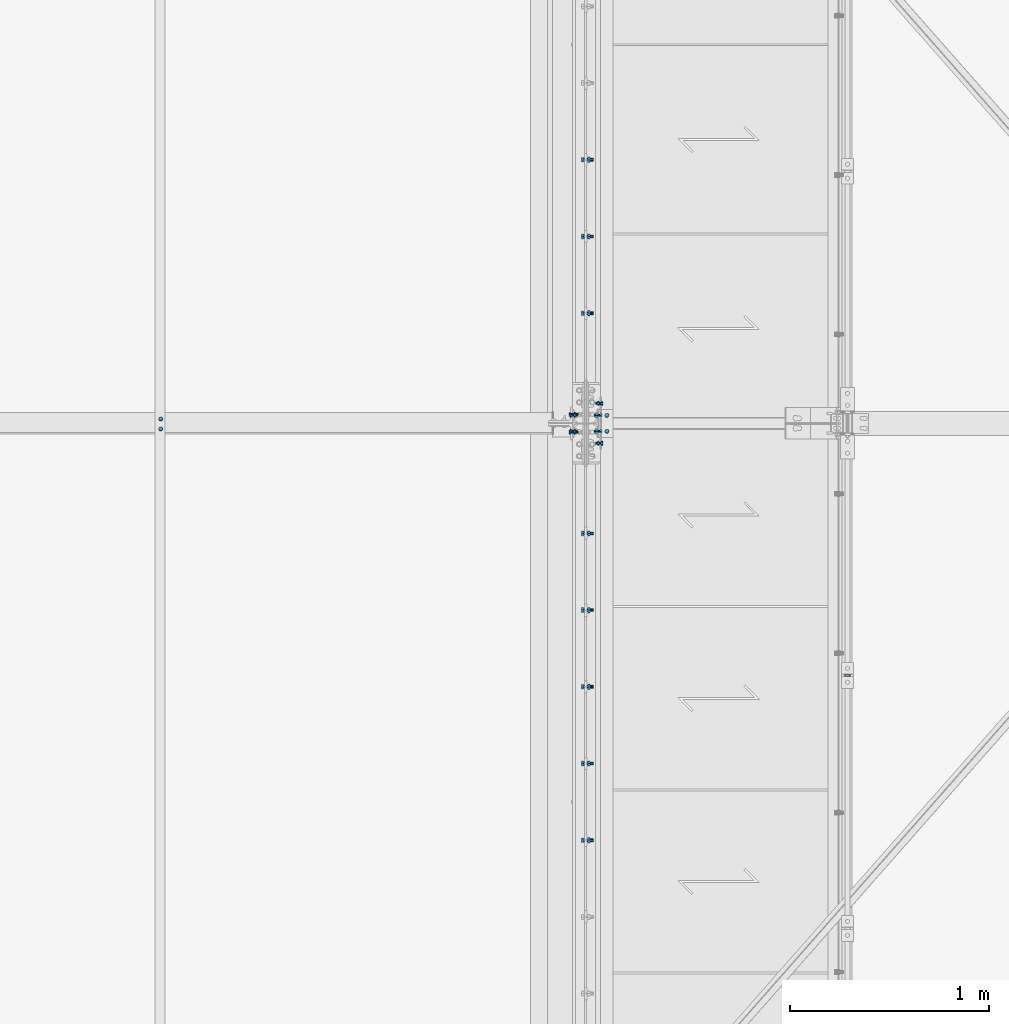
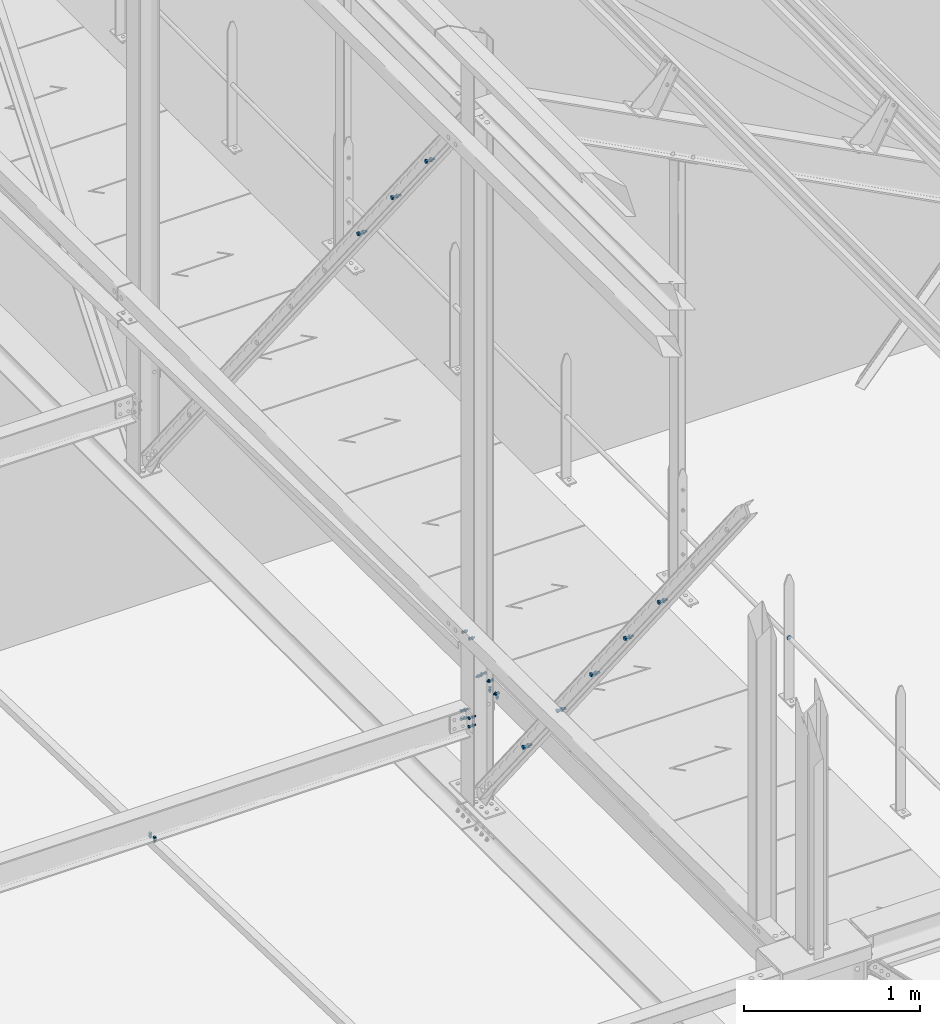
# One storey, part 226 of 362: 22 mechanical fasteners.
"""IFC2X3 building model written with IfcOpenShell, lengths in millimetres."""

import ifcopenshell
import ifcopenshell.guid

model = None  # the IFC model being written
_history = None  # IfcOwnerHistory: only IFC2X3 demands one
_inside = {}  # id of a spatial element -> (the spatial element, [elements in it])
_under = {}  # id of a project, library or spatial element -> (it, [spatial elements below it])
_declared = {}  # id of a project -> (the project, [libraries it declares])
_typed = {}  # id of a type object -> (the type object, [elements of that type])
_made_of = {}  # id of a material, layer set ... -> (it, [elements and type objects made of it])


def new_model(schema):
    """Start an empty IFC model of exactly this schema.

    Asked for "IFC4X3", IfcOpenShell would pick the latest addendum, in which some entities
    have other attributes; the version numbers below select the first issue.
    IFC2X3 requires an IfcOwnerHistory on every rooted entity: one is made here for all.
    """
    global model, _history
    if schema == "IFC4X3":
        model = ifcopenshell.file(schema_version=(4, 3, 0, 0))
    else:
        model = ifcopenshell.file(schema=schema)
    _inside.clear()
    _under.clear()
    _declared.clear()
    _typed.clear()
    _made_of.clear()
    _history = None
    if model.schema == "IFC2X3":
        org = make("IfcOrganization", Name="unknown")
        user = make(
            "IfcPersonAndOrganization",
            ThePerson=make("IfcPerson", FamilyName="unknown"),
            TheOrganization=org,
        )
        app = make(
            "IfcApplication",
            ApplicationDeveloper=org,
            Version="unknown",
            ApplicationFullName="unknown",
            ApplicationIdentifier="unknown",
        )
        _history = make(
            "IfcOwnerHistory",
            OwningUser=user,
            OwningApplication=app,
            ChangeAction="ADDED",
            CreationDate=0,
        )
    return model


def make(cls, **values):
    """One entity of the class cls with the attributes given. An attribute that is None is left unset."""
    return model.create_entity(
        cls, **{name: value for name, value in values.items() if value is not None}
    )


def rooted(cls, **values):
    """An entity with a GlobalId (a new one), such as an element, a storey or a relation."""
    return make(cls, GlobalId=ifcopenshell.guid.new(), OwnerHistory=_history, **values)


def si_unit(unit_type, name, prefix=None):
    """IfcSIUnit, for example si_unit("LENGTHUNIT", "METRE", prefix="MILLI")."""
    return make("IfcSIUnit", UnitType=unit_type, Prefix=prefix, Name=name)


def assignment(units):
    """IfcUnitAssignment: the units of a project."""
    return None if units is None else make("IfcUnitAssignment", Units=units)


def point(xyz):
    """IfcCartesianPoint."""
    return None if xyz is None else make("IfcCartesianPoint", Coordinates=xyz)


def direction(xyz):
    """IfcDirection."""
    return None if xyz is None else make("IfcDirection", DirectionRatios=xyz)


def frame(location, z_axis=None, x_axis=None):
    """IfcAxis2Placement3D, a coordinate frame: its origin and axes. An axis left out is left unset."""
    return make(
        "IfcAxis2Placement3D",
        Location=point(location),
        Axis=direction(z_axis),
        RefDirection=direction(x_axis),
    )


def frame_2d(location, x_axis=None):
    """IfcAxis2Placement2D, a coordinate frame in the plane: its origin and x axis."""
    return make(
        "IfcAxis2Placement2D", Location=point(location), RefDirection=direction(x_axis)
    )


def origin_with_axes():
    """The frame at (0, 0, 0) with the z axis (0, 0, 1) and the x axis (1, 0, 0) written out."""
    return frame((0.0, 0.0, 0.0), z_axis=(0.0, 0.0, 1.0), x_axis=(1.0, 0.0, 0.0))


def origin_2d_with_axis():
    """The frame at (0, 0) in the plane with the x axis (1, 0) written out."""
    return frame_2d((0.0, 0.0), x_axis=(1.0, 0.0))


def place(relative_to, where):
    """IfcLocalPlacement: puts the frame where relative to a parent placement (None: the world)."""
    return make(
        "IfcLocalPlacement", PlacementRelTo=relative_to, RelativePlacement=where
    )


def context(
    kind, dimensions, precision=None, world=None, true_north=None, identifier=None
):
    """IfcGeometricRepresentationContext, for example the 3D "Model" context."""
    return make(
        "IfcGeometricRepresentationContext",
        ContextIdentifier=identifier,
        ContextType=kind,
        CoordinateSpaceDimension=dimensions,
        Precision=precision,
        WorldCoordinateSystem=world,
        TrueNorth=true_north,
    )


def subcontext(parent, identifier, kind, view, scale=None):
    """IfcGeometricRepresentationSubContext, for example "Body" below "Model"."""
    return make(
        "IfcGeometricRepresentationSubContext",
        ContextIdentifier=identifier,
        ContextType=kind,
        ParentContext=parent,
        TargetScale=scale,
        TargetView=view,
    )


def project(units=None, contexts=None):
    """IfcProject with its units and contexts."""
    return rooted(
        "IfcProject",
        Name="project",
        RepresentationContexts=contexts,
        UnitsInContext=assignment(units),
    )


def spatial(cls, under=None, at=None, **own):
    """A site, building, storey or space (cls), placed at a placement, below another one or the project."""
    s = rooted(cls, ObjectPlacement=at, **own)
    if under is not None:
        _under.setdefault(under.id(), (under, []))[1].append(s)
    return s


def polyline(points):
    """IfcPolyline through the points."""
    return make("IfcPolyline", Points=[point(p) for p in points])


def profile(cls, at=None, kind="AREA", **sizes):
    """A parametric profile (cls). Its sizes go by their IFC names, for example OverallWidth=200.0."""
    return make(cls, ProfileType=kind, Position=at, **sizes)


def circle(**sizes):
    """IfcCircleProfileDef."""
    return profile("IfcCircleProfileDef", **sizes)


def outline(outer, holes=None, kind="AREA"):
    """IfcArbitraryClosedProfileDef: a profile drawn as a closed curve; with holes, ...WithVoids."""
    if holes is None:
        return make("IfcArbitraryClosedProfileDef", ProfileType=kind, OuterCurve=outer)
    return make(
        "IfcArbitraryProfileDefWithVoids",
        ProfileType=kind,
        OuterCurve=outer,
        InnerCurves=holes,
    )


def extrude(swept, where, along, depth):
    """IfcExtrudedAreaSolid: the profile swept, set in the frame where, extruded along a direction by depth."""
    return make(
        "IfcExtrudedAreaSolid",
        SweptArea=swept,
        Position=where,
        ExtrudedDirection=direction(along),
        Depth=depth,
    )


def shape(context_of_items, identifier, shape_type, items):
    """IfcShapeRepresentation: the items that make up one representation, for example the "Body"."""
    return make(
        "IfcShapeRepresentation",
        ContextOfItems=context_of_items,
        RepresentationIdentifier=identifier,
        RepresentationType=shape_type,
        Items=items,
    )


def source(mapping_origin, context_of_items, identifier, shape_type, items):
    """IfcRepresentationMap: a shape defined once, which mapped items show again and again."""
    return make(
        "IfcRepresentationMap",
        MappingOrigin=mapping_origin,
        MappedRepresentation=shape(context_of_items, identifier, shape_type, items),
    )


def transform(
    local_origin,
    x_axis=None,
    y_axis=None,
    z_axis=None,
    scale=None,
    scale2=None,
    scale3=None,
    uniform=True,
):
    """IfcCartesianTransformationOperator3D, or its non-uniform kind. x_axis, y_axis, z_axis: its Axis1, 2, 3."""
    if uniform:
        return make(
            "IfcCartesianTransformationOperator3D",
            Axis1=direction(x_axis),
            Axis2=direction(y_axis),
            LocalOrigin=point(local_origin),
            Scale=scale,
            Axis3=direction(z_axis),
        )
    return make(
        "IfcCartesianTransformationOperator3DnonUniform",
        Axis1=direction(x_axis),
        Axis2=direction(y_axis),
        LocalOrigin=point(local_origin),
        Scale=scale,
        Axis3=direction(z_axis),
        Scale2=scale2,
        Scale3=scale3,
    )


def mapped(mapping_source, mapping_target):
    """IfcMappedItem: shows the shape of a source again, moved by a transform."""
    return make(
        "IfcMappedItem", MappingSource=mapping_source, MappingTarget=mapping_target
    )


def material(Name=None, Category=None):
    """IfcMaterial."""
    return make("IfcMaterial", Name=Name, Category=Category)


def made_of(thing, what):
    """Note that an element or type object is made of a material, layer set ...; save() writes the relation."""
    if what is not None:
        _made_of.setdefault(what.id(), (what, []))[1].append(thing)
    return thing


def type_object(cls, material=None, **own):
    """A type object (cls), such as IfcWallType, which elements share."""
    return made_of(rooted(cls, **own), material)


def element(
    cls,
    number,
    at=None,
    inside=None,
    cuts=None,
    type_object=None,
    material=None,
    context=None,
    identifier="Body",
    shape_type=None,
    held_by="IfcProductDefinitionShape",
    body=None,
    shapes=None,
    **own,
):
    """One element of the class cls, such as IfcWall. Its Tag is "e" and its number.

    at: its placement. inside: the storey or other place that contains it. cuts: it is an
    opening in that element (IfcRelVoidsElement). A single representation is given by context,
    identifier, shape_type and body (its items); several are given by shapes. held_by: the class
    of the entity that holds the representations. save() writes the other relations.
    """
    e = rooted(cls, Tag="e%d" % number, ObjectPlacement=at, **own)
    if body is not None:
        shapes = [shape(context, identifier, shape_type, body)]
    if shapes is not None:
        e.Representation = make(held_by, Representations=shapes)
    if inside is not None:
        _inside.setdefault(inside.id(), (inside, []))[1].append(e)
    if cuts is not None:
        rooted(
            "IfcRelVoidsElement", RelatingBuildingElement=cuts, RelatedOpeningElement=e
        )
    if type_object is not None:
        _typed.setdefault(type_object.id(), (type_object, []))[1].append(e)
    return made_of(e, material)


def aggregate(whole, parts):
    """IfcRelAggregates: a whole, such as a stair, and the parts it consists of."""
    return rooted("IfcRelAggregates", RelatingObject=whole, RelatedObjects=parts)


def save(model, path):
    """Write the relations noted so far, then the file.

    IfcRelAggregates (storeys below a building ...), IfcRelContainedInSpatialStructure (elements
    in a storey), IfcRelDefinesByType, IfcRelAssociatesMaterial and IfcRelDeclares: one each for
    every whole, place, type object, material and project.
    """
    for whole, parts in _under.values():
        aggregate(whole, parts)
    for where, things in _inside.values():
        rooted(
            "IfcRelContainedInSpatialStructure",
            RelatedElements=things,
            RelatingStructure=where,
        )
    for kind, things in _typed.values():
        rooted("IfcRelDefinesByType", RelatedObjects=things, RelatingType=kind)
    for what, things in _made_of.values():
        rooted("IfcRelAssociatesMaterial", RelatedObjects=things, RelatingMaterial=what)
    for by, libraries in _declared.values():
        rooted("IfcRelDeclares", RelatingContext=by, RelatedDefinitions=libraries)
    model.write(path)


model = new_model("IFC2X3")

# Units and contexts
model_context = context("Model", 3, precision=1e-05, world=origin_with_axes())
body_context = subcontext(model_context, "Body", "Model", "MODEL_VIEW")
ifc_project = project(units=[si_unit("LENGTHUNIT", "METRE", prefix="MILLI"), si_unit("AREAUNIT", "SQUARE_METRE"), si_unit("VOLUMEUNIT", "CUBIC_METRE"), si_unit("MASSUNIT", "GRAM", prefix="KILO"), si_unit("TIMEUNIT", "SECOND"), si_unit("PLANEANGLEUNIT", "RADIAN"), si_unit("SOLIDANGLEUNIT", "STERADIAN"), si_unit("THERMODYNAMICTEMPERATUREUNIT", "DEGREE_CELSIUS"), si_unit("LUMINOUSINTENSITYUNIT", "LUMEN")], contexts=[model_context])

# Site, building, storey
site_placement = place(None, origin_with_axes())
site = spatial("IfcSite", under=ifc_project, at=site_placement, Name="Undefined", CompositionType="ELEMENT")
building_placement = place(site_placement, origin_with_axes())
building = spatial("IfcBuilding", under=site, at=building_placement, Name="Undefined", CompositionType="ELEMENT")
storey_placement = place(building_placement, origin_with_axes())
storey = spatial("IfcBuildingStorey", under=building, at=storey_placement, Name="Undefined", CompositionType="ELEMENT", Elevation=0.0)

# Mechanical fasteners
ifc_material_1 = material(Name="8.8-SB-ZINGUE")
mechanical_fastener_type = type_object("IfcMechanicalFastenerType", Name="Bolt assembly")
shared_shape_1 = source(origin_with_axes(), body_context, "Body", "SweptSolid", [
    extrude(circle(Radius=9.0, at=origin_2d_with_axis()), frame((0.0, -10.9000000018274, 0.0), z_axis=(0.0, 1.0, 0.0), x_axis=(1.0, 0.0, 0.0)), (0.0, 0.0, 1.0), 6.0),
    extrude(circle(Radius=9.0, at=origin_2d_with_axis()), frame((0.0, 4.9000000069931, 0.0), z_axis=(0.0, 1.0, 0.0), x_axis=(1.0, 0.0, 0.0)), (0.0, 0.0, 1.0), 6.1),
    extrude(circle(Radius=9.0, at=origin_2d_with_axis()), frame((0.0, -3.99999923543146, 0.0), z_axis=(0.0, 1.0, 0.0), x_axis=(1.0, 0.0, 0.0)), (0.0, 0.0, 1.0), 8.0),
    extrude(outline(polyline([(13.85640646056, 0.0), (6.92820323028, 12.0000000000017), (-6.92820323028, 12.0000000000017), (-13.85640646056, 0.0), (-6.92820323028, -12.0000000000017), (6.92820323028, -12.0000000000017), (13.85640646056, 0.0)])), frame((0.0, -21.5600000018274, 0.0), z_axis=(0.0, 1.0, 0.0), x_axis=(1.0, 0.0, 0.0)), (0.0, 0.0, 1.0), 10.56),
    extrude(circle(Radius=8.0, at=origin_2d_with_axis()), frame((0.0, -11.0000000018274, 0.0), z_axis=(0.0, 1.0, 0.0), x_axis=(1.0, 0.0, 0.0)), (0.0, 0.0, 1.0), 50.0),
    extrude(outline(polyline([(15.3344231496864, 0.0), (7.6672115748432, 13.2800000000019), (-7.6672115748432, 13.2800000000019), (-15.3344231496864, 0.0), (-7.6672115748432, -13.2800000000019), (7.6672115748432, -13.2800000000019), (15.3344231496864, 0.0)])), frame((0.0, 11.0000000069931, 0.0), z_axis=(0.0, 1.0, 0.0), x_axis=(1.0, 0.0, 0.0)), (0.0, 0.0, 1.0), 10.56),
])
for number, where, z_axis, x_axis, name in (
    (1, (12680.0, 1707.54406530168, 9885.94766062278), (0.0, 1.0, 0.0), (0.0, 0.0, 1.0), "Bolt assembly"),
    (2, (12680.0, 2092.46145592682, 9401.0523385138), (0.0, 1.0, 0.0), (0.0, 0.0, 1.0), "Bolt assembly"),
    (3, (12680.0, 2477.37884655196, 8916.15701640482), (0.0, 1.0, 0.0), (0.0, 0.0, 1.0), "Bolt assembly"),
    (4, (12680.0, 2862.29623717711, 8431.26169429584), (0.0, 1.0, 0.0), (0.0, 0.0, 1.0), "Bolt assembly"),
    (5, (12680.0, 3247.21362780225, 7946.36637218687), (0.0, 1.0, 0.0), (0.0, 0.0, 1.0), "Bolt assembly"),
    (6, (12680.0, 4352.78710359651, 11340.6337213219), (0.0, 1.0, 0.0), (0.0, 0.0, 1.0), "Bolt assembly"),
    (7, (12680.0, 4737.70507401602, 10855.7383723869), (0.0, 1.0, 0.0), (0.0, 0.0, 1.0), "Bolt assembly"),
    (8, (12680.0, 5122.62304443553, 10370.843023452), (0.0, 1.0, 0.0), (0.0, 0.0, 1.0), "Bolt assembly"),
):
    element("IfcMechanicalFastener", number, at=place(storey_placement, frame(where, z_axis=z_axis, x_axis=x_axis)), inside=storey, type_object=mechanical_fastener_type, material=ifc_material_1, Name=name, NominalDiameter=16.0, NominalLength=50.0, context=body_context, shape_type="MappedRepresentation", body=[
        mapped(shared_shape_1, transform((0.0, 0.0, 0.0))),
    ])
shared_shape_2 = source(origin_with_axes(), body_context, "Body", "SweptSolid", [
    extrude(circle(Radius=7.0, at=origin_2d_with_axis()), frame((0.0, -8.39481938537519, 0.0), z_axis=(0.0, 1.0, 0.0), x_axis=(1.0, 0.0, 0.0)), (0.0, 0.0, 1.0), 8.5),
    extrude(circle(Radius=7.0, at=origin_2d_with_axis()), frame((0.0, -0.100011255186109, 0.0), z_axis=(0.0, 1.0, 0.0), x_axis=(1.0, 0.0, 0.0)), (0.0, 0.0, 1.0), 5.1),
    extrude(outline(polyline([(10.39230484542, 0.0), (5.19615242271, 9.00000000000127), (-5.19615242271, 9.00000000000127), (-10.39230484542, 0.0), (-5.19615242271, -9.00000000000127), (5.19615242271, -9.00000000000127), (10.39230484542, 0.0)])), frame((0.0, -16.4148193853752, 0.0), z_axis=(0.0, 1.0, 0.0), x_axis=(1.0, 0.0, 0.0)), (0.0, 0.0, 1.0), 7.92),
    extrude(circle(Radius=6.0, at=origin_2d_with_axis()), frame((0.0, -8.49481938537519, 0.0), z_axis=(0.0, 1.0, 0.0), x_axis=(1.0, 0.0, 0.0)), (0.0, 0.0, 1.0), 30.0),
    extrude(outline(polyline([(11.5008173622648, 0.0), (5.7504086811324, 9.96000000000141), (-5.7504086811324, 9.96000000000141), (-11.5008173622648, 0.0), (-5.7504086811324, -9.96000000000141), (5.7504086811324, -9.96000000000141), (11.5008173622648, 0.0)])), frame((0.0, 5.0, 0.0), z_axis=(0.0, 1.0, 0.0), x_axis=(1.0, 0.0, 0.0)), (0.0, 0.0, 1.0), 7.92),
])
mechanical_fastener_1_placement = place(storey_placement, frame((10546.7500126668, 3796.86456270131, 7730.58514469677), z_axis=(0.0, -0.999506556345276, 0.031410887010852), x_axis=(-1.0, 0.0, 0.0)))
element("IfcMechanicalFastener", 9, at=mechanical_fastener_1_placement, inside=storey, type_object=mechanical_fastener_type, material=ifc_material_1, Name="Bolt assembly", NominalDiameter=12.0, NominalLength=30.0, context=body_context, shape_type="MappedRepresentation", body=[
    mapped(shared_shape_2, transform((0.0, 0.0, -25.0))),
    mapped(shared_shape_2, transform((0.0, 0.0, 25.0))),
])
ifc_material_2 = material(Name="6.8")
shared_shape_3 = source(origin_with_axes(), body_context, "Body", "SweptSolid", [
    extrude(circle(Radius=14.0, at=origin_2d_with_axis()), frame((0.0, -5.00000000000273, 0.0), z_axis=(0.0, 1.0, 0.0), x_axis=(1.0, 0.0, 0.0)), (0.0, 0.0, 1.0), 10.1),
])
mechanical_fastener_2_placement = place(storey_placement, frame((13993.9998847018, 2535.00344774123, 8673.80000564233), z_axis=(0.0, 0.0, 1.0), x_axis=(-1.0, 0.0, 0.0)))
element("IfcMechanicalFastener", 10, at=mechanical_fastener_2_placement, inside=storey, type_object=mechanical_fastener_type, material=ifc_material_2, Name="Bolt assembly", NominalDiameter=27.0, NominalLength=10.0, context=body_context, shape_type="MappedRepresentation", body=[
    mapped(shared_shape_3, transform((0.0, 0.0, 0.0))),
])
shared_shape_4 = source(origin_with_axes(), body_context, "Body", "SweptSolid", [
    extrude(circle(Radius=7.0, at=origin_2d_with_axis()), frame((0.0, -0.091713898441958, 0.0), z_axis=(0.0, 1.0, 0.0), x_axis=(1.0, 0.0, 0.0)), (0.0, 0.0, 1.0), 8.6),
    extrude(circle(Radius=7.0, at=origin_2d_with_axis()), frame((0.0, -4.90000000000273, 0.0), z_axis=(0.0, 1.0, 0.0), x_axis=(1.0, 0.0, 0.0)), (0.0, 0.0, 1.0), 5.0),
    extrude(outline(polyline([(10.39230484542, 0.0), (5.19615242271, 9.00000000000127), (-5.19615242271, 9.00000000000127), (-10.39230484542, 0.0), (-5.19615242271, -9.00000000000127), (5.19615242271, -9.00000000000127), (10.39230484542, 0.0)])), frame((0.0, -12.9200004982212, 0.0), z_axis=(0.0, 1.0, 0.0), x_axis=(1.0, 0.0, 0.0)), (0.0, 0.0, 1.0), 7.92),
    extrude(circle(Radius=6.0, at=origin_2d_with_axis()), frame((0.0, -5.00000000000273, 0.0), z_axis=(0.0, 1.0, 0.0), x_axis=(1.0, 0.0, 0.0)), (0.0, 0.0, 1.0), 30.0),
    extrude(outline(polyline([(11.5008173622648, 0.0), (5.7504086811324, 9.96000000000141), (-5.7504086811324, 9.96000000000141), (-11.5008173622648, 0.0), (-5.7504086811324, -9.96000000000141), (5.7504086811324, -9.96000000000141), (11.5008173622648, 0.0)])), frame((0.0, 8.50828610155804, 0.0), z_axis=(0.0, 1.0, 0.0), x_axis=(1.0, 0.0, 0.0)), (0.0, 0.0, 1.0), 7.92),
])
for number, where, z_axis, x_axis, name in (
    (11, (12746.5082861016, 3760.00000098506, 8070.00000000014), (0.0, 1.0, 0.0), (0.0, 0.0, -1.0), "Bolt assembly"),
    (12, (12746.5082861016, 3840.00000098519, 8070.00000000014), (0.0, 1.0, 0.0), (0.0, 0.0, -1.0), "Bolt assembly"),
):
    element("IfcMechanicalFastener", number, at=place(storey_placement, frame(where, z_axis=z_axis, x_axis=x_axis)), inside=storey, type_object=mechanical_fastener_type, material=ifc_material_1, Name=name, NominalDiameter=12.0, NominalLength=30.0, context=body_context, shape_type="MappedRepresentation", body=[
        mapped(shared_shape_4, transform((0.0, 0.0, 0.0))),
    ])
shared_shape_5 = source(origin_with_axes(), body_context, "Body", "SweptSolid", [
    extrude(circle(Radius=7.0, at=origin_2d_with_axis()), frame((0.0, -4.90000000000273, 0.0), z_axis=(0.0, 1.0, 0.0), x_axis=(1.0, 0.0, 0.0)), (0.0, 0.0, 1.0), 5.0),
    extrude(circle(Radius=7.0, at=origin_2d_with_axis()), frame((0.0, -0.100011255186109, 0.0), z_axis=(0.0, 1.0, 0.0), x_axis=(1.0, 0.0, 0.0)), (0.0, 0.0, 1.0), 7.1),
    extrude(outline(polyline([(10.39230484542, 0.0), (5.19615242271, 9.00000000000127), (-5.19615242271, 9.00000000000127), (-10.39230484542, 0.0), (-5.19615242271, -9.00000000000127), (5.19615242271, -9.00000000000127), (10.39230484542, 0.0)])), frame((0.0, -12.9200004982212, 0.0), z_axis=(0.0, 1.0, 0.0), x_axis=(1.0, 0.0, 0.0)), (0.0, 0.0, 1.0), 7.92),
    extrude(circle(Radius=6.0, at=origin_2d_with_axis()), frame((0.0, -5.00000000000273, 0.0), z_axis=(0.0, 1.0, 0.0), x_axis=(1.0, 0.0, 0.0)), (0.0, 0.0, 1.0), 30.0),
    extrude(outline(polyline([(11.5008173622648, 0.0), (5.7504086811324, 9.96000000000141), (-5.7504086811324, 9.96000000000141), (-11.5008173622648, 0.0), (-5.7504086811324, -9.96000000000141), (5.7504086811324, -9.96000000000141), (11.5008173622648, 0.0)])), frame((0.0, 7.0, 0.0), z_axis=(0.0, 1.0, 0.0), x_axis=(1.0, 0.0, 0.0)), (0.0, 0.0, 1.0), 7.92),
])
for number, where, z_axis, x_axis, name in (
    (13, (12786.5082861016, 3839.99999998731, 7950.00000000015), (0.0, -1.0, 0.0), (-1.0, 0.0, 0.0), "Bolt assembly"),
    (14, (12786.5082861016, 3759.99999998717, 7950.00000000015), (0.0, -1.0, 0.0), (-1.0, 0.0, 0.0), "Bolt assembly"),
):
    element("IfcMechanicalFastener", number, at=place(storey_placement, frame(where, z_axis=z_axis, x_axis=x_axis)), inside=storey, type_object=mechanical_fastener_type, material=ifc_material_1, Name=name, NominalDiameter=12.0, NominalLength=30.0, context=body_context, shape_type="MappedRepresentation", body=[
        mapped(shared_shape_5, transform((0.0, 0.0, 0.0))),
    ])
shared_shape_6 = source(origin_with_axes(), body_context, "Body", "SweptSolid", [
    extrude(circle(Radius=7.0, at=origin_2d_with_axis()), frame((0.0, -0.108170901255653, 0.0), z_axis=(0.0, 1.0, 0.0), x_axis=(1.0, 0.0, 0.0)), (0.0, 0.0, 1.0), 5.1),
    extrude(circle(Radius=7.0, at=origin_2d_with_axis()), frame((0.0, -6.4, 0.0), z_axis=(0.0, 1.0, 0.0), x_axis=(1.0, 0.0, 0.0)), (0.0, 0.0, 1.0), 6.0),
    extrude(outline(polyline([(10.39230484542, 0.0), (5.19615242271, 9.00000000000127), (-5.19615242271, 9.00000000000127), (-10.39230484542, 0.0), (-5.19615242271, -9.00000000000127), (5.19615242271, -9.00000000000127), (10.39230484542, 0.0)])), frame((0.0, -14.42, 0.0), z_axis=(0.0, 1.0, 0.0), x_axis=(1.0, 0.0, 0.0)), (0.0, 0.0, 1.0), 7.92),
    extrude(circle(Radius=6.0, at=origin_2d_with_axis()), frame((0.0, -6.5, 0.0), z_axis=(0.0, 1.0, 0.0), x_axis=(1.0, 0.0, 0.0)), (0.0, 0.0, 1.0), 30.0),
    extrude(outline(polyline([(11.5008173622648, 0.0), (5.7504086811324, 9.96000000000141), (-5.7504086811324, 9.96000000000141), (-11.5008173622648, 0.0), (-5.7504086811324, -9.96000000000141), (5.7504086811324, -9.96000000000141), (11.5008173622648, 0.0)])), frame((0.0, 4.99182909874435, 0.0), z_axis=(0.0, 1.0, 0.0), x_axis=(1.0, 0.0, 0.0)), (0.0, 0.0, 1.0), 7.92),
])
for number, where, z_axis, x_axis, name in (
    (15, (12751.5001144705, 3899.999999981, 8015.00000000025), (0.0, 0.0, -1.0), (0.0, -1.0, 0.0), "Bolt assembly"),
    (16, (12751.5001144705, 3699.99999998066, 8015.00000000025), (0.0, 0.0, 1.0), (0.0, 1.0, 0.0), "Bolt assembly"),
):
    element("IfcMechanicalFastener", number, at=place(storey_placement, frame(where, z_axis=z_axis, x_axis=x_axis)), inside=storey, type_object=mechanical_fastener_type, material=ifc_material_1, Name=name, NominalDiameter=12.0, NominalLength=30.0, context=body_context, shape_type="MappedRepresentation", body=[
        mapped(shared_shape_6, transform((0.0, 0.0, 0.0))),
    ])
shared_shape_7 = source(origin_with_axes(), body_context, "Body", "SweptSolid", [
    extrude(circle(Radius=7.0, at=origin_2d_with_axis()), frame((0.0, -0.100011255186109, 0.0), z_axis=(0.0, 1.0, 0.0), x_axis=(1.0, 0.0, 0.0)), (0.0, 0.0, 1.0), 8.6),
    extrude(circle(Radius=7.0, at=origin_2d_with_axis()), frame((0.0, -3.89999843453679, 0.0), z_axis=(0.0, 1.0, 0.0), x_axis=(1.0, 0.0, 0.0)), (0.0, 0.0, 1.0), 4.0),
    extrude(outline(polyline([(10.39230484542, 0.0), (5.19615242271, 9.00000000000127), (-5.19615242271, 9.00000000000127), (-10.39230484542, 0.0), (-5.19615242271, -9.00000000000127), (5.19615242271, -9.00000000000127), (10.39230484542, 0.0)])), frame((0.0, -11.9199984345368, 0.0), z_axis=(0.0, 1.0, 0.0), x_axis=(1.0, 0.0, 0.0)), (0.0, 0.0, 1.0), 7.92),
    extrude(circle(Radius=6.0, at=origin_2d_with_axis()), frame((0.0, -3.99999923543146, 0.0), z_axis=(0.0, 1.0, 0.0), x_axis=(1.0, 0.0, 0.0)), (0.0, 0.0, 1.0), 30.0),
    extrude(outline(polyline([(11.5008173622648, 0.0), (5.7504086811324, 9.96000000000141), (-5.7504086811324, 9.96000000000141), (-11.5008173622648, 0.0), (-5.7504086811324, -9.96000000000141), (5.7504086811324, -9.96000000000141), (11.5008173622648, 0.0)])), frame((0.0, 8.49999994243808, 0.0), z_axis=(0.0, 1.0, 0.0), x_axis=(1.0, 0.0, 0.0)), (0.0, 0.0, 1.0), 7.92),
])
for number, where, z_axis, x_axis, name in (
    (17, (12613.5000000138, 3840.0, 8404.59626929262), (0.0, 0.0, -1.0), (0.0, 1.0, 0.0), "Bolt assembly"),
    (18, (12613.5000000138, 3760.0, 8407.11059506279), (0.0, 0.0, 1.0), (0.0, -1.0, 0.0), "Bolt assembly"),
):
    element("IfcMechanicalFastener", number, at=place(storey_placement, frame(where, z_axis=z_axis, x_axis=x_axis)), inside=storey, type_object=mechanical_fastener_type, material=ifc_material_1, Name=name, NominalDiameter=12.0, NominalLength=30.0, context=body_context, shape_type="MappedRepresentation", body=[
        mapped(shared_shape_7, transform((0.0, 0.0, 0.0))),
    ])
shared_shape_8 = source(origin_with_axes(), body_context, "Body", "SweptSolid", [
    extrude(circle(Radius=7.0, at=origin_2d_with_axis()), frame((0.0, -0.100011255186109, 0.0), z_axis=(0.0, 1.0, 0.0), x_axis=(1.0, 0.0, 0.0)), (0.0, 0.0, 1.0), 8.6),
    extrude(circle(Radius=7.0, at=origin_2d_with_axis()), frame((0.0, -9.9, 0.0), z_axis=(0.0, 1.0, 0.0), x_axis=(1.0, 0.0, 0.0)), (0.0, 0.0, 1.0), 10.0),
    extrude(outline(polyline([(10.39230484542, 0.0), (5.19615242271, 9.00000000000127), (-5.19615242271, 9.00000000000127), (-10.39230484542, 0.0), (-5.19615242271, -9.00000000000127), (5.19615242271, -9.00000000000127), (10.39230484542, 0.0)])), frame((0.0, -17.92, 0.0), z_axis=(0.0, 1.0, 0.0), x_axis=(1.0, 0.0, 0.0)), (0.0, 0.0, 1.0), 7.92),
    extrude(circle(Radius=6.0, at=origin_2d_with_axis()), frame((0.0, -10.0000010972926, 0.0), z_axis=(0.0, 1.0, 0.0), x_axis=(1.0, 0.0, 0.0)), (0.0, 0.0, 1.0), 40.0),
    extrude(outline(polyline([(11.5008173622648, 0.0), (5.7504086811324, 9.96000000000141), (-5.7504086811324, 9.96000000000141), (-11.5008173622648, 0.0), (-5.7504086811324, -9.96000000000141), (5.7504086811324, -9.96000000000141), (11.5008173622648, 0.0)])), frame((0.0, 8.49999994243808, 0.0), z_axis=(0.0, 1.0, 0.0), x_axis=(1.0, 0.0, 0.0)), (0.0, 0.0, 1.0), 7.92),
])
for number, where, z_axis, x_axis, name in (
    (19, (12613.5000013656, 3845.00563042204, 7859.13293149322), (0.0, 0.0, -1.0), (0.0, 1.0, 0.0), "Bolt assembly"),
    (20, (12613.5000013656, 3845.00563042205, 7799.10330963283), (0.0, 0.0, -1.0), (0.0, 1.0, 0.0), "Bolt assembly"),
    (21, (12613.5000013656, 3755.00563042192, 7801.93171494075), (0.0, 0.0, 1.0), (0.0, -1.0, 0.0), "Bolt assembly"),
    (22, (12613.5000013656, 3755.00563042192, 7861.96133680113), (0.0, 0.0, 1.0), (0.0, -1.0, 0.0), "Bolt assembly"),
):
    element("IfcMechanicalFastener", number, at=place(storey_placement, frame(where, z_axis=z_axis, x_axis=x_axis)), inside=storey, type_object=mechanical_fastener_type, material=ifc_material_1, Name=name, NominalDiameter=12.0, NominalLength=40.0, context=body_context, shape_type="MappedRepresentation", body=[
        mapped(shared_shape_8, transform((0.0, 0.0, 0.0))),
    ])

save(model, "model.ifc")
